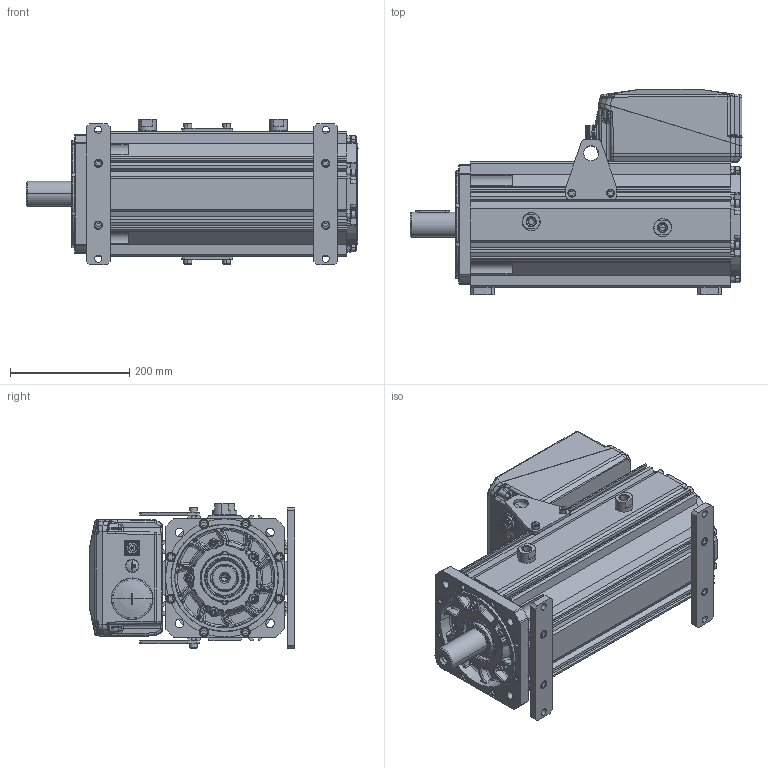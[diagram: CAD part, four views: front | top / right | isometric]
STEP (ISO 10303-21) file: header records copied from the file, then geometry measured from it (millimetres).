
FILE_DESCRIPTION((''),'2;1');
FILE_NAME('67992N-0_SW0001','2016-07-05T',('yanyerong'),(''),'PRO/ENGINEER BY PARAMETRIC TECHNOLOGY CORPORATION, 2010430','PRO/ENGINEER BY PARAMETRIC TECHNOLOGY CORPORATION, 2010430','');
FILE_SCHEMA(('CONFIG_CONTROL_DESIGN'));
Products named in the file (1): 67992N-0_SW0001
Bounding box: 556 x 343.62 x 243.64 mm (x, y, z)
Surface area: 1494678.6 mm2 (no closed solid volume)
Topology: 0 solids, 123 shells, 2507 faces, 7088 edges, 4658 vertices
Faces by surface type: plane 791, cylinder 617, bspline 535, torus 261, cone 230, sphere 73
Entity records: 121147 total; most frequent: CARTESIAN_POINT 60453, ORIENTED_EDGE 12509, DIRECTION 11887, EDGE_CURVE 7080, VERTEX_POINT 4658, AXIS2_PLACEMENT_3D 4614, EDGE_LOOP 2771, VECTOR 2659
